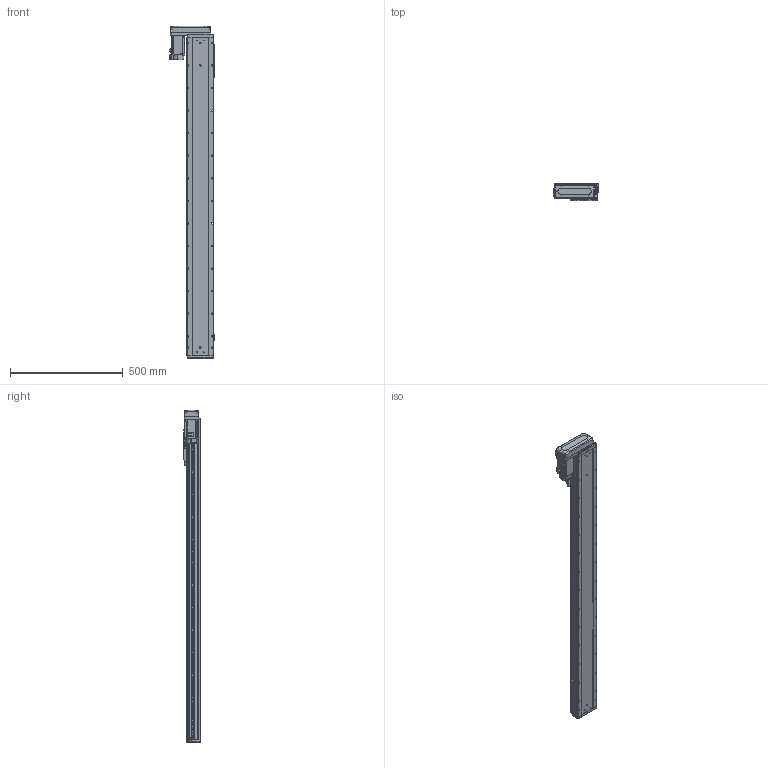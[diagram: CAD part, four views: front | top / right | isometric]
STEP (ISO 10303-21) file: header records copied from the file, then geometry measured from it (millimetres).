
FILE_DESCRIPTION (( 'STEP AP203' ), '1' );
FILE_NAME ('GTH12-1200-BR-M40-C4.step', '2025-07-16T03:43:35', ( '' ), ( '' ), 'SwSTEP 2.0', 'SolidWorks 2023', '' );
FILE_SCHEMA (( 'CONFIG_CONTROL_DESIGN' ));
Length unit declared in the file: millimetre
Products named in the file (18): hg-kn43j_-s100_; GTH50-024; GBT 70.3-M3×8; GTH80-022; GTH120-001_1200; GTH50-023; GTH120-013; BTH-M3X5X6; GTH120-027-1_GTH120-027-2; GTH80-028; GTH120-003; CTHA86-033_M40B; GBT 70.1-M3×6; GBT 70.1-M5×16; GTH120-004; GTH120-006; GBT96.1-2002 3×0.8; GTH12-1200-BR-M40-C4
Assembly tree (59 placements, depth 2):
  GTH12-1200-BR-M40-C4
    GTH120-001_1200
    GTH120-003
    GTH120-006
    GTH120-004
    GTH120-013
    GBT 70.1-M3×6  x14
    GBT 70.1-M5×16  x10
    GBT 70.3-M3×8  x4
    GTH80-022
    GTH80-028  x2
    GTH50-023  x3
    GTH50-024  x3
    GBT96.1-2002 3×0.8  x6
    BTH-M3X5X6  x8
    hg-kn43j_-s100_
    CTHA86-033_M40B
    GTH120-027-1_GTH120-027-2
Bounding box: 203.5 x 76 x 1470.5 mm (x, y, z)
Volume: 10437555.7 mm3; surface area: 870696.8 mm2
Topology: 61 solids, 61 shells, 2591 faces, 6088 edges, 3739 vertices
Faces by surface type: plane 1312, cylinder 775, cone 316, torus 174, sphere 8, bspline 6
Entity records: 50182 total; most frequent: CARTESIAN_POINT 8504, DIRECTION 8368, ORIENTED_EDGE 7786, EDGE_CURVE 3893, AXIS2_PLACEMENT_3D 2924, VECTOR 2520, LINE 2520, VERTEX_POINT 2460
